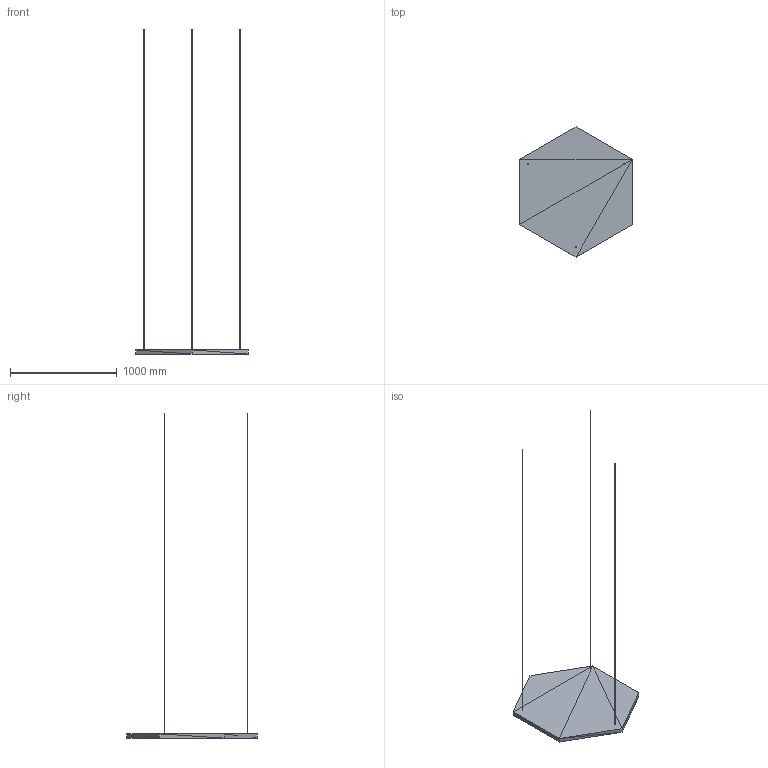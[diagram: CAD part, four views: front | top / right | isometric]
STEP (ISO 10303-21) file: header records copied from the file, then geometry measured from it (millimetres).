
FILE_DESCRIPTION(('ISINAC STEP AP214'),'2;1');
FILE_NAME('ISINAC_HEX.610_40mm_COLGADO','2026-05-03T10:49:19',('ISINAC'),('www.isinac.com'),'ISINAC BIM Generator 1.0','','');
FILE_SCHEMA(('AUTOMOTIVE_DESIGN'));
Length unit declared in the file: millimetre
Products named in the file (1): ISINAC_HEX.610_40mm_COLGADO
Bounding box: 1056.55 x 1220 x 3040 mm (x, y, z)
Surface area: 2160922.2 mm2 (no closed solid volume)
Topology: 0 solids, 80 shells, 80 faces, 240 edges, 240 vertices
Faces by surface type: plane 80
Entity records: 893 total; most frequent: CARTESIAN_POINT 320, DIRECTION 160, POLY_LOOP 80, FACE_OUTER_BOUND 80, AXIS2_PLACEMENT_3D 80, PLANE 80, FACE_SURFACE 80, CLOSED_SHELL 1
